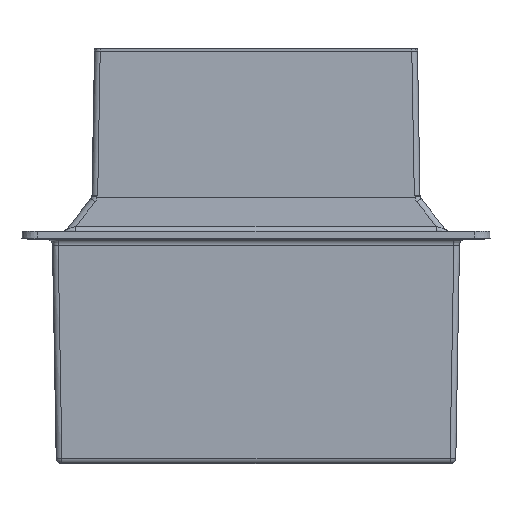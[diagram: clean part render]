
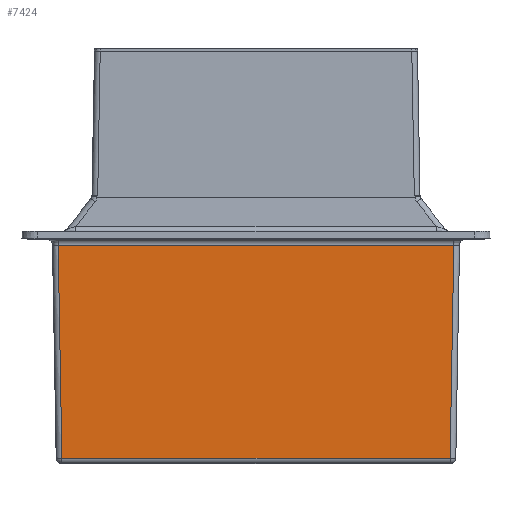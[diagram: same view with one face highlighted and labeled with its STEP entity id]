
A CAD part, left-side view. The second image highlights one B-rep face of the part: STEP entity #7424.
In plain terms, the highlighted planar face has unit normal (-1, 0, -0.018).
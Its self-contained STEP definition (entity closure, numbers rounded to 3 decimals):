
#604 = ORIENTED_EDGE ( 'NONE', *, *, #11779, .T. ) ;
#606 = ORIENTED_EDGE ( 'NONE', *, *, #11780, .T. ) ;
#631 = ORIENTED_EDGE ( 'NONE', *, *, #11777, .T. ) ;
#692 = ORIENTED_EDGE ( 'NONE', *, *, #11778, .T. ) ;
#698 = EDGE_LOOP ( 'NONE', ( #631, #692, #604, #606 ) ) ;
#2192 = VERTEX_POINT ( 'NONE', #11334 ) ;
#2196 = VERTEX_POINT ( 'NONE', #11338 ) ;
#2199 = VERTEX_POINT ( 'NONE', #11341 ) ;
#2200 = VERTEX_POINT ( 'NONE', #11342 ) ;
#3493 = PLANE ( 'NONE',  #9730 ) ;
#3532 = CARTESIAN_POINT ( 'NONE',  ( -672.684, 359.865, -171.263 ) ) ;
#3534 = DIRECTION ( 'NONE',  ( -1., 0., -0.017 ) ) ;
#3536 = DIRECTION ( 'NONE',  ( -0.017, 0., 1. ) ) ;
#3836 = CARTESIAN_POINT ( 'NONE',  ( -679.373, 356.726, 211.912 ) ) ;
#3867 = CARTESIAN_POINT ( 'NONE',  ( -672.474, -329.927, -183.299 ) ) ;
#3871 = DIRECTION ( 'NONE',  ( -0.017, -0.017, 1. ) ) ;
#3873 = DIRECTION ( 'NONE',  ( 0., 1., 0. ) ) ;
#3877 = CARTESIAN_POINT ( 'NONE',  ( -672.687, 349.869, -171.088 ) ) ;
#3880 = DIRECTION ( 'NONE',  ( 0.017, -0.017, -1. ) ) ;
#3882 = CARTESIAN_POINT ( 'NONE',  ( -672.856, 359.865, -161.437 ) ) ;
#3885 = DIRECTION ( 'NONE',  ( 0., -1., 0. ) ) ;
#7424 = ADVANCED_FACE ( 'NONE', ( #10511 ), #3493, .T. ) ;
#9730 = AXIS2_PLACEMENT_3D ( 'NONE', #3532, #3534, #3536 ) ;
#10511 = FACE_OUTER_BOUND ( 'NONE', #698, .T. ) ;
#10782 = LINE ( 'NONE', #3836, #10795 ) ;
#10790 = LINE ( 'NONE', #3867, #10793 ) ;
#10793 = VECTOR ( 'NONE', #3871, 1000. ) ;
#10794 = LINE ( 'NONE', #3877, #10797 ) ;
#10795 = VECTOR ( 'NONE', #3873, 1000. ) ;
#10796 = LINE ( 'NONE', #3882, #10799 ) ;
#10797 = VECTOR ( 'NONE', #3880, 1000. ) ;
#10799 = VECTOR ( 'NONE', #3885, 1000. ) ;
#11334 = CARTESIAN_POINT ( 'NONE',  ( -672.856, -330.308, -161.437 ) ) ;
#11338 = CARTESIAN_POINT ( 'NONE',  ( -679.373, -336.825, 211.912 ) ) ;
#11341 = CARTESIAN_POINT ( 'NONE',  ( -679.373, 356.555, 211.912 ) ) ;
#11342 = CARTESIAN_POINT ( 'NONE',  ( -672.856, 350.038, -161.437 ) ) ;
#11777 = EDGE_CURVE ( 'NONE', #2192, #2196, #10790, .T. ) ;
#11778 = EDGE_CURVE ( 'NONE', #2196, #2199, #10782, .T. ) ;
#11779 = EDGE_CURVE ( 'NONE', #2199, #2200, #10794, .T. ) ;
#11780 = EDGE_CURVE ( 'NONE', #2200, #2192, #10796, .T. ) ;
